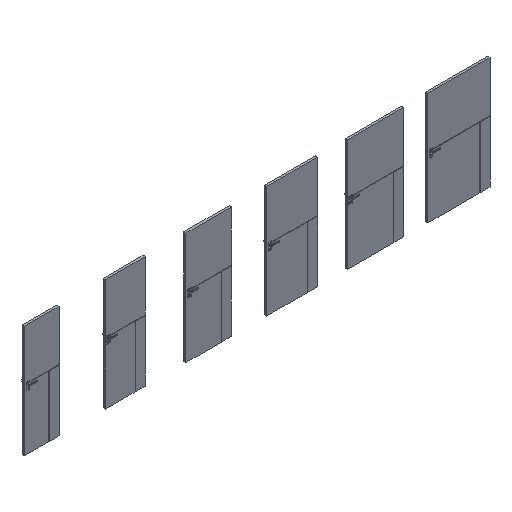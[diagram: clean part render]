
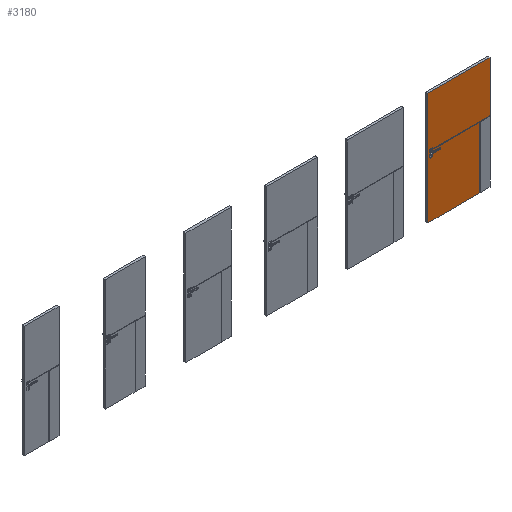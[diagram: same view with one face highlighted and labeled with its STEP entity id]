
A CAD part, isometric view. The second image highlights one B-rep face of the part: STEP entity #3180.
In plain terms, the highlighted planar face has unit normal (0, -1, 0).
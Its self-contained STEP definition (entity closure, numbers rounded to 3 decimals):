
#1944=FACE_OUTER_BOUND('',#6012,.T.);
#3180=ADVANCED_FACE('',(#1944),#4256,.F.);
#4256=PLANE('',#21225);
#6012=EDGE_LOOP('',(#9015,#9016,#9017,#9018,#9019,#9020,#9021,#9022));
#9015=ORIENTED_EDGE('',*,*,#15328,.T.);
#9016=ORIENTED_EDGE('',*,*,#15329,.T.);
#9017=ORIENTED_EDGE('',*,*,#15306,.F.);
#9018=ORIENTED_EDGE('',*,*,#15330,.F.);
#9019=ORIENTED_EDGE('',*,*,#15331,.T.);
#9020=ORIENTED_EDGE('',*,*,#15323,.T.);
#9021=ORIENTED_EDGE('',*,*,#15332,.T.);
#9022=ORIENTED_EDGE('',*,*,#15333,.T.);
#13190=VERTEX_POINT('',#32743);
#13191=VERTEX_POINT('',#32745);
#13205=VERTEX_POINT('',#32777);
#13206=VERTEX_POINT('',#32779);
#13210=VERTEX_POINT('',#32789);
#13211=VERTEX_POINT('',#32790);
#13212=VERTEX_POINT('',#32793);
#13213=VERTEX_POINT('',#32796);
#15306=EDGE_CURVE('',#13190,#13191,#17778,.T.);
#15323=EDGE_CURVE('',#13206,#13205,#17795,.T.);
#15328=EDGE_CURVE('',#13210,#13211,#17800,.T.);
#15329=EDGE_CURVE('',#13211,#13191,#17801,.T.);
#15330=EDGE_CURVE('',#13212,#13190,#17802,.T.);
#15331=EDGE_CURVE('',#13212,#13206,#17803,.T.);
#15332=EDGE_CURVE('',#13205,#13213,#17804,.T.);
#15333=EDGE_CURVE('',#13213,#13210,#17805,.T.);
#17778=LINE('',#32744,#19530);
#17795=LINE('',#32778,#19547);
#17800=LINE('',#32788,#19552);
#17801=LINE('',#32791,#19553);
#17802=LINE('',#32792,#19554);
#17803=LINE('',#32794,#19555);
#17804=LINE('',#32795,#19556);
#17805=LINE('',#32797,#19557);
#19530=VECTOR('',#24365,1.);
#19547=VECTOR('',#24386,1.);
#19552=VECTOR('',#24393,1.);
#19553=VECTOR('',#24394,1.);
#19554=VECTOR('',#24395,1.);
#19555=VECTOR('',#24396,1.);
#19556=VECTOR('',#24397,1.);
#19557=VECTOR('',#24398,1.);
#21225=AXIS2_PLACEMENT_3D('',#32798,#24399,#24400);
#24365=DIRECTION('',(0.,0.,-1.));
#24386=DIRECTION('',(1.,0.,0.));
#24393=DIRECTION('',(0.,0.,1.));
#24394=DIRECTION('',(1.,0.,0.));
#24395=DIRECTION('',(1.,0.,0.));
#24396=DIRECTION('',(0.,0.,-1.));
#24397=DIRECTION('',(0.,0.,1.));
#24398=DIRECTION('',(-1.,0.,0.));
#24399=DIRECTION('',(0.,1.,0.));
#24400=DIRECTION('',(-1.,0.,0.));
#32743=CARTESIAN_POINT('',(8059.,-39.3,2017.));
#32744=CARTESIAN_POINT('',(8059.,-39.3,2017.));
#32745=CARTESIAN_POINT('',(8059.,-39.3,1107.));
#32777=CARTESIAN_POINT('',(7876.,-39.3,0.));
#32778=CARTESIAN_POINT('',(7191.,-39.3,0.));
#32779=CARTESIAN_POINT('',(6941.,-39.3,0.));
#32788=CARTESIAN_POINT('',(6996.,-39.3,1101.));
#32789=CARTESIAN_POINT('',(6996.,-39.3,1101.));
#32790=CARTESIAN_POINT('',(6996.,-39.3,1107.));
#32791=CARTESIAN_POINT('',(6996.,-39.3,1107.));
#32792=CARTESIAN_POINT('',(7191.,-39.3,2017.));
#32793=CARTESIAN_POINT('',(6941.,-39.3,2017.));
#32794=CARTESIAN_POINT('',(6941.,-39.3,2017.));
#32795=CARTESIAN_POINT('',(7876.,-39.3,0.));
#32796=CARTESIAN_POINT('',(7876.,-39.3,1101.));
#32797=CARTESIAN_POINT('',(8059.,-39.3,1101.));
#32798=CARTESIAN_POINT('',(7191.,-39.3,2017.));
